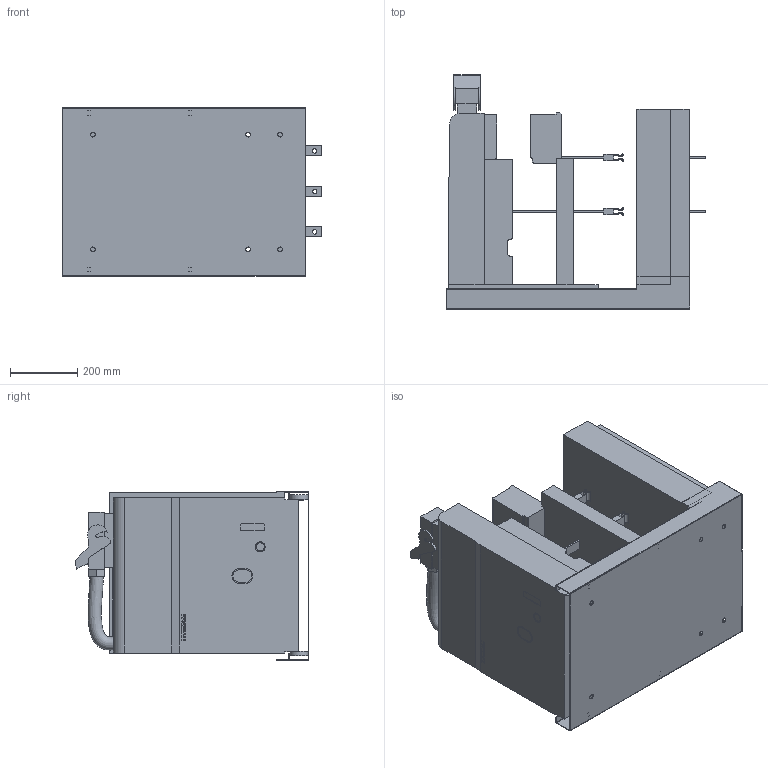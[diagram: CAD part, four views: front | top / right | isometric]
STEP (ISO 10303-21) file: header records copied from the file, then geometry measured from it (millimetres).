
FILE_DESCRIPTION(('STEP AP214'), '1');
FILE_NAME('Âûäâèæíîå èñïîëíåíèå 3,6_7,2êÂ, êîðçèíà êëàññà E_F (D2)', '', ('UNSPECIFIED'), ('UNSPECIFIED'), 'ASCON STEP Converter 1.3', 'ASCON Math Kernel', '');
FILE_SCHEMA(('AUTOMOTIVE_DESIGN { 1 0 10303 214 3 1 1}'));
Length unit declared in the file: millimetre
Bounding box: 767.57 x 693.06 x 500.01 mm (x, y, z)
Volume: 98876123.7 mm3; surface area: 3689014.3 mm2
Topology: 2 solids, 2 shells, 451 faces, 1236 edges, 812 vertices
Faces by surface type: plane 339, cylinder 85, extrusion 26, bspline 1
Full cylindrical faces by diameter (mm): 13 x6, 14 x6, 24 x1, 30 x1, 54 x4
Entity records: 19702 total; most frequent: CARTESIAN_POINT 4524, ORIENTED_EDGE 2432, DIRECTION 2233, EDGE_CURVE 1216, VECTOR 997, LINE 971, VERTEX_POINT 810, AXIS2_PLACEMENT_3D 618
